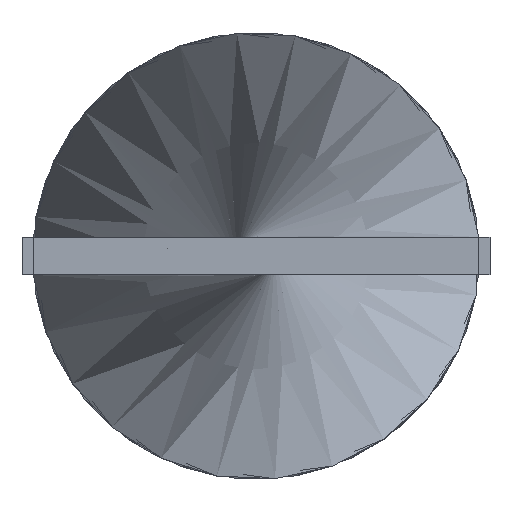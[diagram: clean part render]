
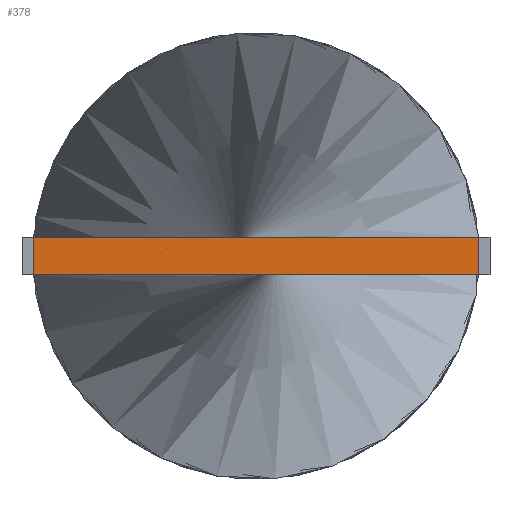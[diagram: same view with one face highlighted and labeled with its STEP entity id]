
A CAD part, front view. The second image highlights one B-rep face of the part: STEP entity #378.
In plain terms, the highlighted planar face has unit normal (0, -1, 0).
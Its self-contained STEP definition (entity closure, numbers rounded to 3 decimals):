
#47 = VECTOR ( 'NONE', #1540, 1000. ) ;
#93 = AXIS2_PLACEMENT_3D ( 'NONE', #1204, #1023, #1196 ) ;
#130 = LINE ( 'NONE', #704, #741 ) ;
#167 = ORIENTED_EDGE ( 'NONE', *, *, #1509, .T. ) ;
#204 = VERTEX_POINT ( 'NONE', #1124 ) ;
#257 = VERTEX_POINT ( 'NONE', #1590 ) ;
#364 = LINE ( 'NONE', #1026, #47 ) ;
#378 = ADVANCED_FACE ( 'NONE', ( #1154 ), #527, .T. ) ;
#421 = CARTESIAN_POINT ( 'NONE',  ( -5.9, 0., -0.5 ) ) ;
#478 = EDGE_CURVE ( 'NONE', #204, #1355, #1070, .T. ) ;
#527 = PLANE ( 'NONE',  #93 ) ;
#561 = DIRECTION ( 'NONE',  ( 0., 0., 1. ) ) ;
#704 = CARTESIAN_POINT ( 'NONE',  ( 5.9, 0., -0.5 ) ) ;
#741 = VECTOR ( 'NONE', #561, 1000. ) ;
#779 = CARTESIAN_POINT ( 'NONE',  ( 5.9, 0., -0.5 ) ) ;
#869 = EDGE_LOOP ( 'NONE', ( #167, #952, #939, #1110 ) ) ;
#939 = ORIENTED_EDGE ( 'NONE', *, *, #1458, .F. ) ;
#952 = ORIENTED_EDGE ( 'NONE', *, *, #1033, .F. ) ;
#997 = CARTESIAN_POINT ( 'NONE',  ( -5.9, 0., -0.5 ) ) ;
#1017 = DIRECTION ( 'NONE',  ( 1., 0., 0. ) ) ;
#1023 = DIRECTION ( 'NONE',  ( 0., -1., 0. ) ) ;
#1026 = CARTESIAN_POINT ( 'NONE',  ( -5.9, 0., 0.5 ) ) ;
#1033 = EDGE_CURVE ( 'NONE', #257, #1233, #364, .T. ) ;
#1070 = LINE ( 'NONE', #421, #1421 ) ;
#1080 = DIRECTION ( 'NONE',  ( 0., 0., 1. ) ) ;
#1110 = ORIENTED_EDGE ( 'NONE', *, *, #478, .T. ) ;
#1124 = CARTESIAN_POINT ( 'NONE',  ( -5.9, 0., -0.5 ) ) ;
#1154 = FACE_OUTER_BOUND ( 'NONE', #869, .T. ) ;
#1196 = DIRECTION ( 'NONE',  ( 0., 0., -1. ) ) ;
#1204 = CARTESIAN_POINT ( 'NONE',  ( -5.9, 0., -0.5 ) ) ;
#1233 = VERTEX_POINT ( 'NONE', #1406 ) ;
#1355 = VERTEX_POINT ( 'NONE', #779 ) ;
#1406 = CARTESIAN_POINT ( 'NONE',  ( 5.9, 0., 0.5 ) ) ;
#1421 = VECTOR ( 'NONE', #1017, 1000. ) ;
#1451 = VECTOR ( 'NONE', #1080, 1000. ) ;
#1458 = EDGE_CURVE ( 'NONE', #204, #257, #1492, .T. ) ;
#1492 = LINE ( 'NONE', #997, #1451 ) ;
#1509 = EDGE_CURVE ( 'NONE', #1355, #1233, #130, .T. ) ;
#1540 = DIRECTION ( 'NONE',  ( 1., 0., 0. ) ) ;
#1590 = CARTESIAN_POINT ( 'NONE',  ( -5.9, 0., 0.5 ) ) ;
